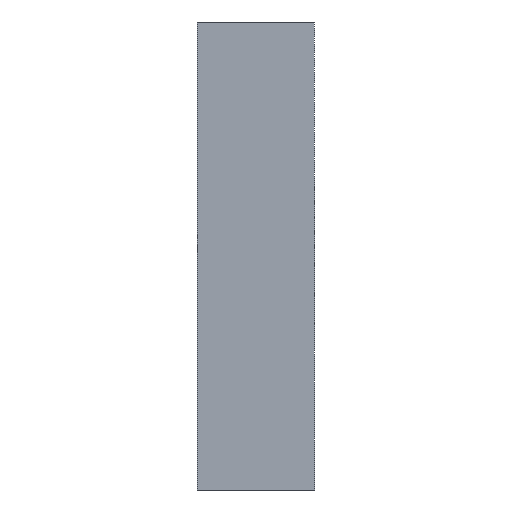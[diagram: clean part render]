
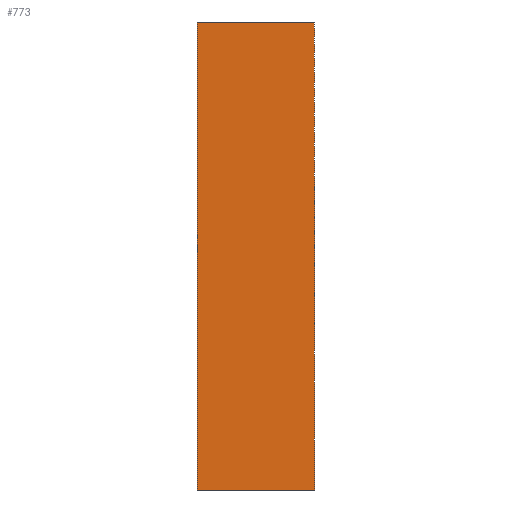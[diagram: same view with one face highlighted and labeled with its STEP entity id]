
A CAD part, front view. The second image highlights one B-rep face of the part: STEP entity #773.
In plain terms, the highlighted planar face has unit normal (0, -1, 0).
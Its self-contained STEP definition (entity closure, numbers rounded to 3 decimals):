
#21 = EDGE_CURVE('',#22,#24,#26,.T.);
#22 = VERTEX_POINT('',#23);
#23 = CARTESIAN_POINT('',(12.7,42.5,13.5));
#24 = VERTEX_POINT('',#25);
#25 = CARTESIAN_POINT('',(12.7,42.5,17.5));
#26 = SURFACE_CURVE('',#27,(#31,#43),.PCURVE_S1.);
#27 = LINE('',#28,#29);
#28 = CARTESIAN_POINT('',(12.7,42.5,13.5));
#29 = VECTOR('',#30,1.);
#30 = DIRECTION('',(0.,0.,1.));
#31 = PCURVE('',#32,#37);
#32 = PLANE('',#33);
#33 = AXIS2_PLACEMENT_3D('',#34,#35,#36);
#34 = CARTESIAN_POINT('',(12.7,42.5,13.5));
#35 = DIRECTION('',(1.,0.,0.));
#36 = DIRECTION('',(0.,0.,1.));
#37 = DEFINITIONAL_REPRESENTATION('',(#38),#42);
#38 = LINE('',#39,#40);
#39 = CARTESIAN_POINT('',(0.,0.));
#40 = VECTOR('',#41,1.);
#41 = DIRECTION('',(1.,0.));
#42 = ( GEOMETRIC_REPRESENTATION_CONTEXT(2) 
PARAMETRIC_REPRESENTATION_CONTEXT() REPRESENTATION_CONTEXT('2D SPACE',''
  ) );
#43 = PCURVE('',#44,#49);
#44 = PLANE('',#45);
#45 = AXIS2_PLACEMENT_3D('',#46,#47,#48);
#46 = CARTESIAN_POINT('',(12.7,42.5,13.5));
#47 = DIRECTION('',(0.,1.,0.));
#48 = DIRECTION('',(0.,0.,1.));
#49 = DEFINITIONAL_REPRESENTATION('',(#50),#54);
#50 = LINE('',#51,#52);
#51 = CARTESIAN_POINT('',(0.,0.));
#52 = VECTOR('',#53,1.);
#53 = DIRECTION('',(1.,0.));
#54 = ( GEOMETRIC_REPRESENTATION_CONTEXT(2) 
PARAMETRIC_REPRESENTATION_CONTEXT() REPRESENTATION_CONTEXT('2D SPACE',''
  ) );
#72 = PLANE('',#73);
#73 = AXIS2_PLACEMENT_3D('',#74,#75,#76);
#74 = CARTESIAN_POINT('',(12.7,42.5,13.5));
#75 = DIRECTION('',(0.,0.,1.));
#76 = DIRECTION('',(1.,0.,0.));
#126 = PLANE('',#127);
#127 = AXIS2_PLACEMENT_3D('',#128,#129,#130);
#128 = CARTESIAN_POINT('',(12.7,42.5,17.5));
#129 = DIRECTION('',(0.,0.,1.));
#130 = DIRECTION('',(1.,0.,0.));
#773 = ADVANCED_FACE('',(#774),#44,.F.);
#774 = FACE_BOUND('',#775,.F.);
#775 = EDGE_LOOP('',(#776,#799,#800,#823));
#776 = ORIENTED_EDGE('',*,*,#777,.F.);
#777 = EDGE_CURVE('',#22,#778,#780,.T.);
#778 = VERTEX_POINT('',#779);
#779 = CARTESIAN_POINT('',(13.7,42.5,13.5));
#780 = SURFACE_CURVE('',#781,(#785,#792),.PCURVE_S1.);
#781 = LINE('',#782,#783);
#782 = CARTESIAN_POINT('',(12.7,42.5,13.5));
#783 = VECTOR('',#784,1.);
#784 = DIRECTION('',(1.,0.,0.));
#785 = PCURVE('',#44,#786);
#786 = DEFINITIONAL_REPRESENTATION('',(#787),#791);
#787 = LINE('',#788,#789);
#788 = CARTESIAN_POINT('',(0.,0.));
#789 = VECTOR('',#790,1.);
#790 = DIRECTION('',(0.,1.));
#791 = ( GEOMETRIC_REPRESENTATION_CONTEXT(2) 
PARAMETRIC_REPRESENTATION_CONTEXT() REPRESENTATION_CONTEXT('2D SPACE',''
  ) );
#792 = PCURVE('',#72,#793);
#793 = DEFINITIONAL_REPRESENTATION('',(#794),#798);
#794 = LINE('',#795,#796);
#795 = CARTESIAN_POINT('',(0.,0.));
#796 = VECTOR('',#797,1.);
#797 = DIRECTION('',(1.,0.));
#798 = ( GEOMETRIC_REPRESENTATION_CONTEXT(2) 
PARAMETRIC_REPRESENTATION_CONTEXT() REPRESENTATION_CONTEXT('2D SPACE',''
  ) );
#799 = ORIENTED_EDGE('',*,*,#21,.T.);
#800 = ORIENTED_EDGE('',*,*,#801,.T.);
#801 = EDGE_CURVE('',#24,#802,#804,.T.);
#802 = VERTEX_POINT('',#803);
#803 = CARTESIAN_POINT('',(13.7,42.5,17.5));
#804 = SURFACE_CURVE('',#805,(#809,#816),.PCURVE_S1.);
#805 = LINE('',#806,#807);
#806 = CARTESIAN_POINT('',(12.7,42.5,17.5));
#807 = VECTOR('',#808,1.);
#808 = DIRECTION('',(1.,0.,0.));
#809 = PCURVE('',#44,#810);
#810 = DEFINITIONAL_REPRESENTATION('',(#811),#815);
#811 = LINE('',#812,#813);
#812 = CARTESIAN_POINT('',(4.,0.));
#813 = VECTOR('',#814,1.);
#814 = DIRECTION('',(0.,1.));
#815 = ( GEOMETRIC_REPRESENTATION_CONTEXT(2) 
PARAMETRIC_REPRESENTATION_CONTEXT() REPRESENTATION_CONTEXT('2D SPACE',''
  ) );
#816 = PCURVE('',#126,#817);
#817 = DEFINITIONAL_REPRESENTATION('',(#818),#822);
#818 = LINE('',#819,#820);
#819 = CARTESIAN_POINT('',(0.,0.));
#820 = VECTOR('',#821,1.);
#821 = DIRECTION('',(1.,0.));
#822 = ( GEOMETRIC_REPRESENTATION_CONTEXT(2) 
PARAMETRIC_REPRESENTATION_CONTEXT() REPRESENTATION_CONTEXT('2D SPACE',''
  ) );
#823 = ORIENTED_EDGE('',*,*,#824,.F.);
#824 = EDGE_CURVE('',#778,#802,#825,.T.);
#825 = SURFACE_CURVE('',#826,(#830,#837),.PCURVE_S1.);
#826 = LINE('',#827,#828);
#827 = CARTESIAN_POINT('',(13.7,42.5,13.5));
#828 = VECTOR('',#829,1.);
#829 = DIRECTION('',(0.,0.,1.));
#830 = PCURVE('',#44,#831);
#831 = DEFINITIONAL_REPRESENTATION('',(#832),#836);
#832 = LINE('',#833,#834);
#833 = CARTESIAN_POINT('',(0.,1.));
#834 = VECTOR('',#835,1.);
#835 = DIRECTION('',(1.,0.));
#836 = ( GEOMETRIC_REPRESENTATION_CONTEXT(2) 
PARAMETRIC_REPRESENTATION_CONTEXT() REPRESENTATION_CONTEXT('2D SPACE',''
  ) );
#837 = PCURVE('',#838,#843);
#838 = PLANE('',#839);
#839 = AXIS2_PLACEMENT_3D('',#840,#841,#842);
#840 = CARTESIAN_POINT('',(13.7,42.5,13.5));
#841 = DIRECTION('',(1.,0.,0.));
#842 = DIRECTION('',(0.,0.,1.));
#843 = DEFINITIONAL_REPRESENTATION('',(#844),#848);
#844 = LINE('',#845,#846);
#845 = CARTESIAN_POINT('',(0.,0.));
#846 = VECTOR('',#847,1.);
#847 = DIRECTION('',(1.,0.));
#848 = ( GEOMETRIC_REPRESENTATION_CONTEXT(2) 
PARAMETRIC_REPRESENTATION_CONTEXT() REPRESENTATION_CONTEXT('2D SPACE',''
  ) );
